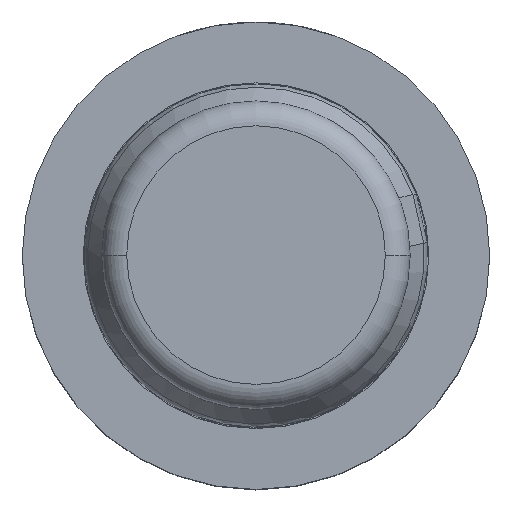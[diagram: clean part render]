
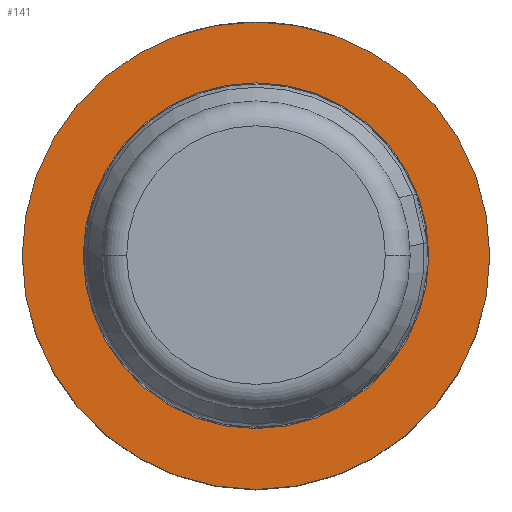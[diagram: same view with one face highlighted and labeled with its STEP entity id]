
A CAD part, top view. The second image highlights one B-rep face of the part: STEP entity #141.
In plain terms, the highlighted planar face has unit normal (0, 0, 1).
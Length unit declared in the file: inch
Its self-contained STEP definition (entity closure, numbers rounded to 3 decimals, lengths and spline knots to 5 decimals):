
#13 = DIRECTION ( 'NONE',  ( 1., 0., 0. ) ) ;
#131 = DIRECTION ( 'NONE',  ( 0., 0., 1. ) ) ;
#141 = ADVANCED_FACE ( 'NONE', ( #834, #1619 ), #919, .T. ) ;
#167 = CARTESIAN_POINT ( 'NONE',  ( 0., 0.05483, -0.12811 ) ) ;
#171 = CARTESIAN_POINT ( 'NONE',  ( 0., 0., -0.12811 ) ) ;
#184 = EDGE_LOOP ( 'NONE', ( #1233, #411 ) ) ;
#284 = CARTESIAN_POINT ( 'NONE',  ( -0.0695, 0., -0.12811 ) ) ;
#317 = DIRECTION ( 'NONE',  ( 1., 0., 0. ) ) ;
#369 = VERTEX_POINT ( 'NONE', #284 ) ;
#410 = AXIS2_PLACEMENT_3D ( 'NONE', #1184, #131, #1923 ) ;
#411 = ORIENTED_EDGE ( 'NONE', *, *, #545, .T. ) ;
#443 = AXIS2_PLACEMENT_3D ( 'NONE', #171, #1069, #317 ) ;
#462 = CARTESIAN_POINT ( 'NONE',  ( 0.094, 0., -0.12811 ) ) ;
#489 = CARTESIAN_POINT ( 'NONE',  ( 0., 0., -0.12811 ) ) ;
#541 = CIRCLE ( 'NONE', #443, 0.0695 ) ;
#545 = EDGE_CURVE ( 'NONE', #1146, #1859, #1717, .T. ) ;
#557 = DIRECTION ( 'NONE',  ( 0., 0., 1. ) ) ;
#834 = FACE_OUTER_BOUND ( 'NONE', #184, .T. ) ;
#919 = PLANE ( 'NONE',  #1871 ) ;
#924 = EDGE_CURVE ( 'NONE', #1859, #1146, #949, .T. ) ;
#949 = CIRCLE ( 'NONE', #410, 0.094 ) ;
#962 = VERTEX_POINT ( 'NONE', #1617 ) ;
#1035 = AXIS2_PLACEMENT_3D ( 'NONE', #489, #557, #1610 ) ;
#1061 = DIRECTION ( 'NONE',  ( 0., 0., 1. ) ) ;
#1065 = DIRECTION ( 'NONE',  ( 0., 0., 1. ) ) ;
#1069 = DIRECTION ( 'NONE',  ( 0., 0., 1. ) ) ;
#1099 = ORIENTED_EDGE ( 'NONE', *, *, #1827, .F. ) ;
#1146 = VERTEX_POINT ( 'NONE', #1568 ) ;
#1157 = ORIENTED_EDGE ( 'NONE', *, *, #1510, .F. ) ;
#1184 = CARTESIAN_POINT ( 'NONE',  ( 0., 0., -0.12811 ) ) ;
#1208 = DIRECTION ( 'NONE',  ( 1., 0., 0. ) ) ;
#1233 = ORIENTED_EDGE ( 'NONE', *, *, #924, .T. ) ;
#1239 = CARTESIAN_POINT ( 'NONE',  ( 0., 0., -0.12811 ) ) ;
#1262 = AXIS2_PLACEMENT_3D ( 'NONE', #1239, #1061, #1208 ) ;
#1510 = EDGE_CURVE ( 'NONE', #369, #962, #1574, .T. ) ;
#1568 = CARTESIAN_POINT ( 'NONE',  ( -0.094, 0., -0.12811 ) ) ;
#1574 = CIRCLE ( 'NONE', #1035, 0.0695 ) ;
#1610 = DIRECTION ( 'NONE',  ( 1., 0., 0. ) ) ;
#1617 = CARTESIAN_POINT ( 'NONE',  ( 0.0695, 0., -0.12811 ) ) ;
#1619 = FACE_BOUND ( 'NONE', #1818, .T. ) ;
#1717 = CIRCLE ( 'NONE', #1262, 0.094 ) ;
#1818 = EDGE_LOOP ( 'NONE', ( #1099, #1157 ) ) ;
#1827 = EDGE_CURVE ( 'NONE', #962, #369, #541, .T. ) ;
#1859 = VERTEX_POINT ( 'NONE', #462 ) ;
#1871 = AXIS2_PLACEMENT_3D ( 'NONE', #167, #1065, #13 ) ;
#1923 = DIRECTION ( 'NONE',  ( 1., 0., 0. ) ) ;
